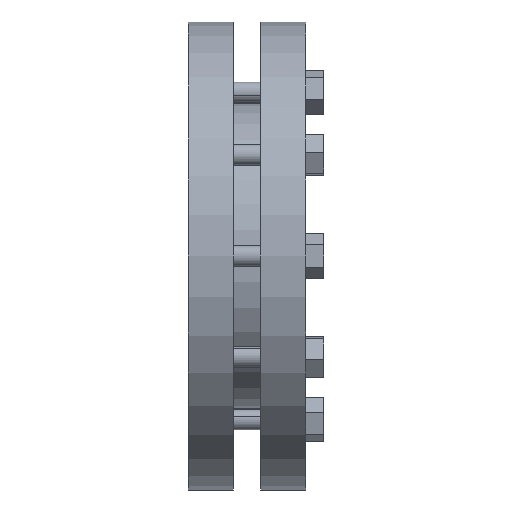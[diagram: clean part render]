
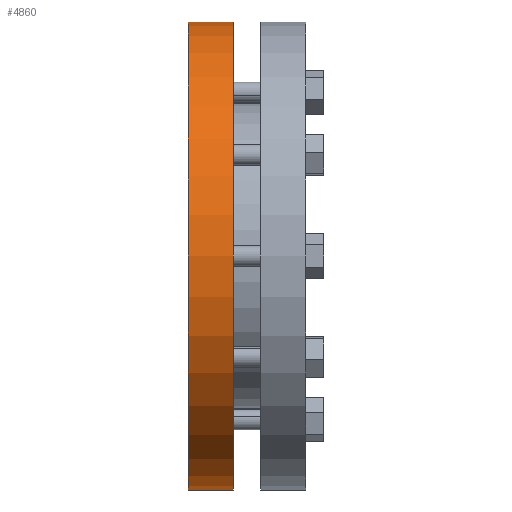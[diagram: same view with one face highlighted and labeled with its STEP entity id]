
A CAD part, front view. The second image highlights one B-rep face of the part: STEP entity #4860.
In plain terms, the highlighted cylindrical face has radius 77.5 mm (diameter 155 mm), a partial arc.
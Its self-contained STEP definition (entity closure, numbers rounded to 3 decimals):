
#2535 = CARTESIAN_POINT ( 'NONE',  ( 15., 0., -77.5 ) ) ;
#2545 = CARTESIAN_POINT ( 'NONE',  ( 15., 0., 77.5 ) ) ;
#2752 = CARTESIAN_POINT ( 'NONE',  ( 0., 0., 0. ) ) ;
#2817 = CARTESIAN_POINT ( 'NONE',  ( 0., 0., 77.5 ) ) ;
#2828 = DIRECTION ( 'NONE',  ( 0., 0., 1. ) ) ;
#2829 = DIRECTION ( 'NONE',  ( -1., 0., 0. ) ) ;
#2830 = AXIS2_PLACEMENT_3D ( 'NONE', #2752, #2829, #2828 ) ;
#2831 = CIRCLE ( 'NONE', #2830, 77.5 ) ;
#2933 = CARTESIAN_POINT ( 'NONE',  ( 0., 0., -77.5 ) ) ;
#2960 = DIRECTION ( 'NONE',  ( -1., 0., 0. ) ) ;
#2961 = VECTOR ( 'NONE', #2960, 1000. ) ;
#2962 = CARTESIAN_POINT ( 'NONE',  ( 0., 0., -77.5 ) ) ;
#2967 = LINE ( 'NONE', #2962, #2961 ) ;
#3114 = AXIS2_PLACEMENT_3D ( 'NONE', #3125, #3462, #3461 ) ;
#3117 = CYLINDRICAL_SURFACE ( 'NONE', #3114, 77.5 ) ;
#3119 = FACE_OUTER_BOUND ( 'NONE', #4807, .T. ) ;
#3125 = CARTESIAN_POINT ( 'NONE',  ( 0., 0., 0. ) ) ;
#3215 = DIRECTION ( 'NONE',  ( -1., 0., 0. ) ) ;
#3216 = VECTOR ( 'NONE', #3215, 1000. ) ;
#3217 = CARTESIAN_POINT ( 'NONE',  ( 0., 0., 77.5 ) ) ;
#3218 = LINE ( 'NONE', #3217, #3216 ) ;
#3391 = DIRECTION ( 'NONE',  ( 0., 0., 1. ) ) ;
#3393 = DIRECTION ( 'NONE',  ( -1., 0., 0. ) ) ;
#3395 = CARTESIAN_POINT ( 'NONE',  ( 15., 0., 0. ) ) ;
#3396 = AXIS2_PLACEMENT_3D ( 'NONE', #3395, #3393, #3391 ) ;
#3397 = CIRCLE ( 'NONE', #3396, 77.5 ) ;
#3461 = DIRECTION ( 'NONE',  ( 0., 0., 1. ) ) ;
#3462 = DIRECTION ( 'NONE',  ( -1., 0., 0. ) ) ;
#4637 = EDGE_CURVE ( 'NONE', #4686, #4638, #2967, .T. ) ;
#4638 = VERTEX_POINT ( 'NONE', #2933 ) ;
#4684 = VERTEX_POINT ( 'NONE', #2545 ) ;
#4686 = VERTEX_POINT ( 'NONE', #2535 ) ;
#4768 = VERTEX_POINT ( 'NONE', #2817 ) ;
#4797 = EDGE_CURVE ( 'NONE', #4638, #4768, #2831, .T. ) ;
#4807 = EDGE_LOOP ( 'NONE', ( #4925, #4903, #4859, #4816 ) ) ;
#4816 = ORIENTED_EDGE ( 'NONE', *, *, #4797, .F. ) ;
#4859 = ORIENTED_EDGE ( 'NONE', *, *, #4951, .T. ) ;
#4860 = ADVANCED_FACE ( 'NONE', ( #3119 ), #3117, .T. ) ;
#4903 = ORIENTED_EDGE ( 'NONE', *, *, #4904, .T. ) ;
#4904 = EDGE_CURVE ( 'NONE', #4686, #4684, #3397, .T. ) ;
#4925 = ORIENTED_EDGE ( 'NONE', *, *, #4637, .F. ) ;
#4951 = EDGE_CURVE ( 'NONE', #4684, #4768, #3218, .T. ) ;
